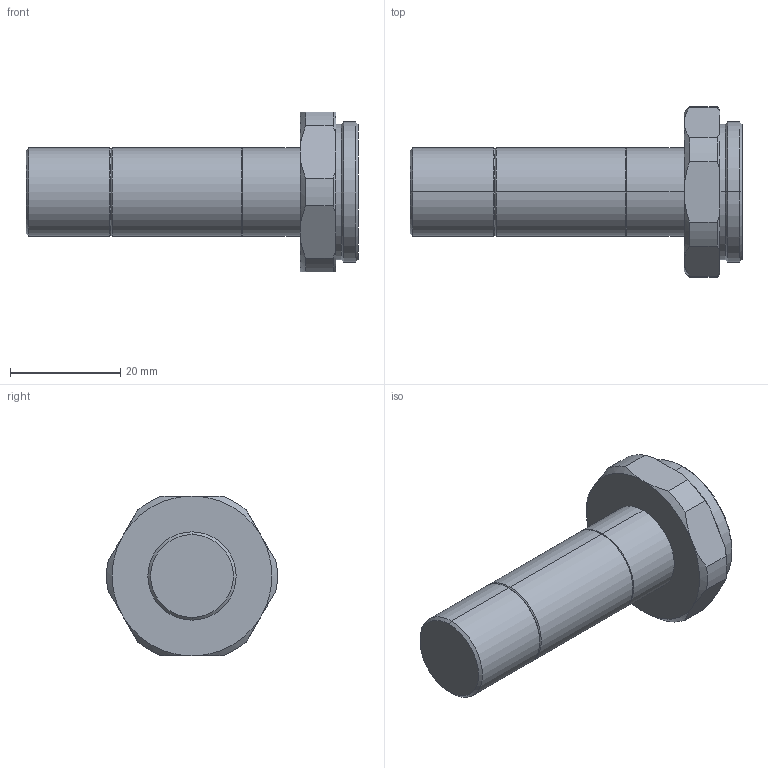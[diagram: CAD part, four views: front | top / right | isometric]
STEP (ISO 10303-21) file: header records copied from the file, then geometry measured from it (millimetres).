
FILE_DESCRIPTION (( 'STEP AP203' ), '1' );
FILE_NAME ('TS-APT1.5X65_Drawing_M0252E-A001.STEP', '2023-01-31T05:51:58', ( '' ), ( '' ), 'SwSTEP 2.0', 'SolidWorks 2021', '' );
FILE_SCHEMA (( 'CONFIG_CONTROL_DESIGN' ));
Length unit declared in the file: millimetre
Products named in the file (1): TS-APT1.5X65_Drawing_M0252E-A001
Bounding box: 60.2 x 30.95 x 29 mm (x, y, z)
Volume: 16560.8 mm3; surface area: 4838.6 mm2
Topology: 1 solids, 1 shells, 53 faces, 120 edges, 72 vertices
Faces by surface type: cone 26, cylinder 16, plane 11
Entity records: 1605 total; most frequent: CARTESIAN_POINT 346, DIRECTION 258, ORIENTED_EDGE 240, EDGE_CURVE 120, AXIS2_PLACEMENT_3D 108, VERTEX_POINT 72, EDGE_LOOP 56, CIRCLE 54
